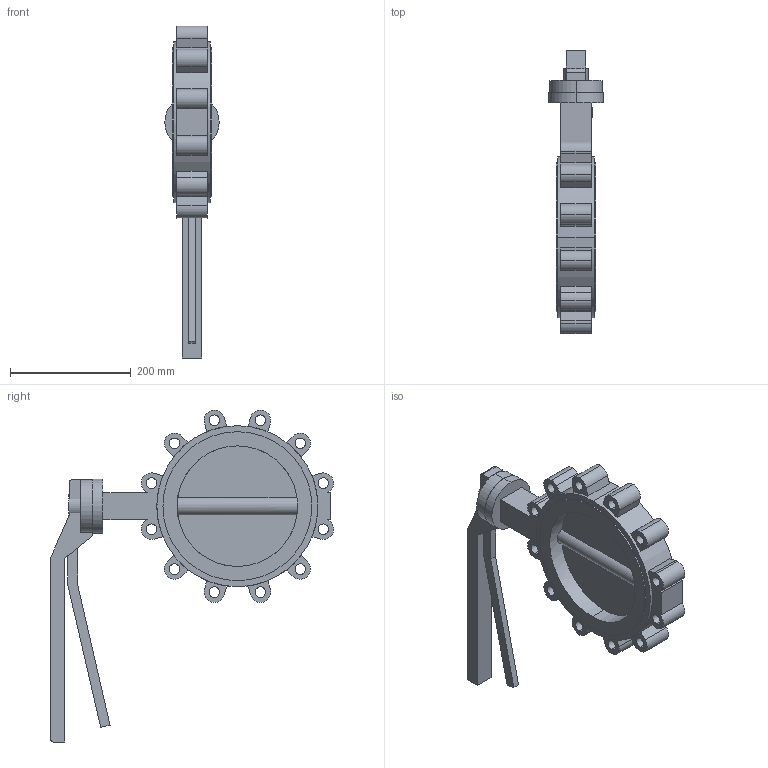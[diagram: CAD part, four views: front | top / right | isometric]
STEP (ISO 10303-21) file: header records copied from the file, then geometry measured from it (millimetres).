
FILE_DESCRIPTION (( 'STEP AP214' ), '1' );
FILE_NAME ('E124_200.STEP', '2021-05-28T12:35:09', ( '' ), ( '' ), 'SwSTEP 2.0', 'SolidWorks 2020', '' );
FILE_SCHEMA (( 'AUTOMOTIVE_DESIGN' ));
Length unit declared in the file: millimetre
Products named in the file (1): E124_200
Bounding box: 90 x 469.47 x 550.47 mm (x, y, z)
Volume: 3273256.3 mm3; surface area: 387610.3 mm2
Topology: 2 solids, 2 shells, 153 faces, 390 edges, 260 vertices
Faces by surface type: plane 91, cylinder 62
Entity records: 6536 total; most frequent: CARTESIAN_POINT 972, DIRECTION 838, ORIENTED_EDGE 780, EDGE_CURVE 390, AXIS2_PLACEMENT_3D 298, VERTEX_POINT 260, LINE 242, VECTOR 242
